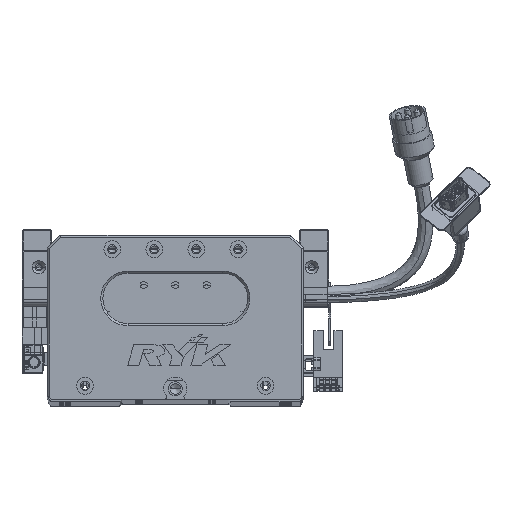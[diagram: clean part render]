
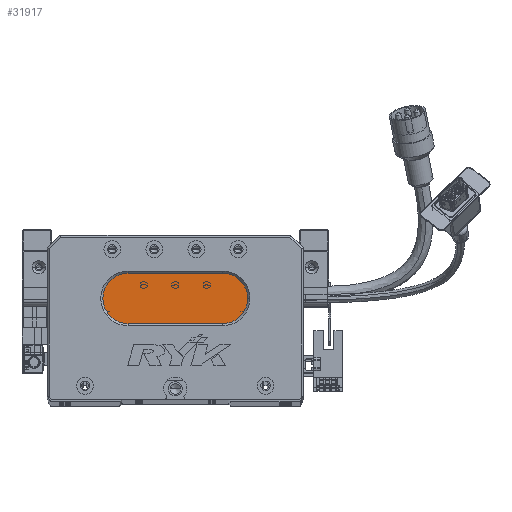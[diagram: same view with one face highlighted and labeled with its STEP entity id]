
A CAD part, top view. The second image highlights one B-rep face of the part: STEP entity #31917.
In plain terms, the highlighted planar face has unit normal (0, 0, 1) as drawn and (0, 0, -1) by its records, which use the part's own axes.
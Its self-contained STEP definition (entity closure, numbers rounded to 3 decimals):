
#313 = CARTESIAN_POINT ( 'NONE',  ( 38.5, 36., 13. ) ) ;
#1704 = AXIS2_PLACEMENT_3D ( 'NONE', #85068, #35837, #36441 ) ;
#1839 = VERTEX_POINT ( 'NONE', #21404 ) ;
#5612 = DIRECTION ( 'NONE',  ( 0., 0., -1. ) ) ;
#6193 = DIRECTION ( 'NONE',  ( 1., 0., 0. ) ) ;
#6207 = CARTESIAN_POINT ( 'NONE',  ( 38.5, 48., 13. ) ) ;
#7498 = VECTOR ( 'NONE', #63205, 1000. ) ;
#10019 = VERTEX_POINT ( 'NONE', #23548 ) ;
#13050 = CARTESIAN_POINT ( 'NONE',  ( 83.5, 36., 13. ) ) ;
#14164 = ORIENTED_EDGE ( 'NONE', *, *, #41667, .T. ) ;
#14411 = ORIENTED_EDGE ( 'NONE', *, *, #25613, .T. ) ;
#17773 = DIRECTION ( 'NONE',  ( 0., 0., -1. ) ) ;
#20772 = CIRCLE ( 'NONE', #1704, 12. ) ;
#21404 = CARTESIAN_POINT ( 'NONE',  ( 83.5, 36., 13. ) ) ;
#23548 = CARTESIAN_POINT ( 'NONE',  ( 83.5, 60., 13. ) ) ;
#25250 = DIRECTION ( 'NONE',  ( -1., 0., 0. ) ) ;
#25272 = LINE ( 'NONE', #84030, #50755 ) ;
#25613 = EDGE_CURVE ( 'NONE', #1839, #63676, #80706, .T. ) ;
#25641 = EDGE_CURVE ( 'NONE', #79125, #10019, #25272, .T. ) ;
#26713 = EDGE_LOOP ( 'NONE', ( #14164, #14411, #78308, #65597, #74777 ) ) ;
#27059 = AXIS2_PLACEMENT_3D ( 'NONE', #38911, #67660, #25250 ) ;
#29017 = CIRCLE ( 'NONE', #27059, 12. ) ;
#31917 = ADVANCED_FACE ( 'NONE', ( #77327 ), #66425, .T. ) ;
#35837 = DIRECTION ( 'NONE',  ( 0., 0., -1. ) ) ;
#36441 = DIRECTION ( 'NONE',  ( -1., 0., 0. ) ) ;
#38905 = CIRCLE ( 'NONE', #87024, 12. ) ;
#38911 = CARTESIAN_POINT ( 'NONE',  ( 38.5, 48., 13. ) ) ;
#41667 = EDGE_CURVE ( 'NONE', #10019, #1839, #20772, .T. ) ;
#41957 = DIRECTION ( 'NONE',  ( -1., 0., 0. ) ) ;
#45714 = CARTESIAN_POINT ( 'NONE',  ( 83.5, 48., 13. ) ) ;
#50755 = VECTOR ( 'NONE', #6193, 1000. ) ;
#55464 = VERTEX_POINT ( 'NONE', #79550 ) ;
#59911 = DIRECTION ( 'NONE',  ( -1., 0., 0. ) ) ;
#60486 = CARTESIAN_POINT ( 'NONE',  ( 38.5, 60., 13. ) ) ;
#61749 = EDGE_CURVE ( 'NONE', #55464, #79125, #29017, .T. ) ;
#63205 = DIRECTION ( 'NONE',  ( -1., 0., 0. ) ) ;
#63676 = VERTEX_POINT ( 'NONE', #313 ) ;
#65597 = ORIENTED_EDGE ( 'NONE', *, *, #61749, .T. ) ;
#66425 = PLANE ( 'NONE',  #82026 ) ;
#67660 = DIRECTION ( 'NONE',  ( 0., 0., -1. ) ) ;
#74777 = ORIENTED_EDGE ( 'NONE', *, *, #25641, .T. ) ;
#77327 = FACE_OUTER_BOUND ( 'NONE', #26713, .T. ) ;
#78308 = ORIENTED_EDGE ( 'NONE', *, *, #86928, .T. ) ;
#79125 = VERTEX_POINT ( 'NONE', #60486 ) ;
#79550 = CARTESIAN_POINT ( 'NONE',  ( 26.5, 48., 13. ) ) ;
#80706 = LINE ( 'NONE', #13050, #7498 ) ;
#82026 = AXIS2_PLACEMENT_3D ( 'NONE', #45714, #17773, #59911 ) ;
#84030 = CARTESIAN_POINT ( 'NONE',  ( 83.5, 60., 13. ) ) ;
#85068 = CARTESIAN_POINT ( 'NONE',  ( 83.5, 48., 13. ) ) ;
#86928 = EDGE_CURVE ( 'NONE', #63676, #55464, #38905, .T. ) ;
#87024 = AXIS2_PLACEMENT_3D ( 'NONE', #6207, #5612, #41957 ) ;
